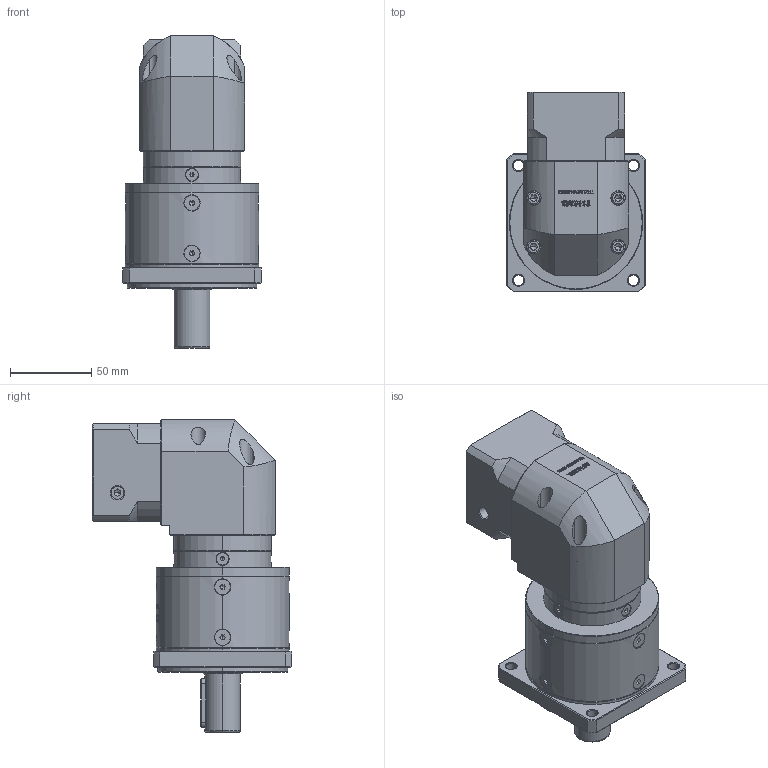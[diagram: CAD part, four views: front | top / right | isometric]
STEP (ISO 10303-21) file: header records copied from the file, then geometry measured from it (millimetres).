
FILE_DESCRIPTION (( 'STEP AP214' ), '1' );
FILE_NAME ('ZFR80-D22-L2-6.35-38.1-47.14x47.14-M4.step', '2022-05-08T14:54:38', ( '' ), ( 'Microsoft' ), 'SwSTEP 2.0', 'SolidWorks 2016', '' );
FILE_SCHEMA (( 'AUTOMOTIVE_DESIGN' ));
Length unit declared in the file: millimetre
Products named in the file (1): ZFR80-D22-L2-6.35-38.1-47.14x47.14-M4
Bounding box: 85 x 122.7 x 192.5 mm (x, y, z)
Volume: 792640.4 mm3; surface area: 104201.9 mm2
Topology: 17 solids, 18 shells, 3073 faces, 8164 edges, 5249 vertices
Faces by surface type: plane 1602, bspline 620, cylinder 462, cone 381, torus 8
Entity records: 163625 total; most frequent: CARTESIAN_POINT 58874, ORIENTED_EDGE 16236, DIRECTION 12329, EDGE_CURVE 8118, VERTEX_POINT 5249, VECTOR 4971, LINE 4971, AXIS2_PLACEMENT_3D 3679
